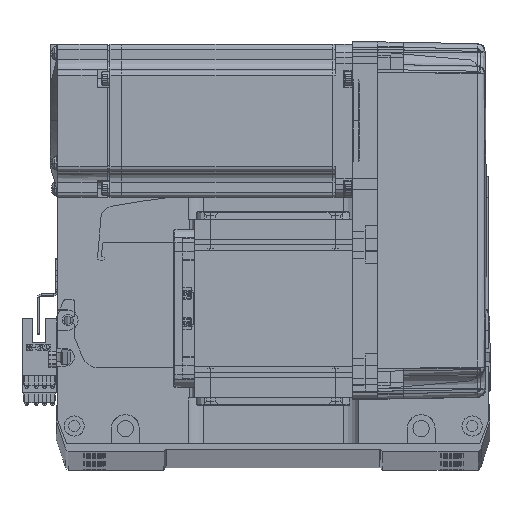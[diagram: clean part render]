
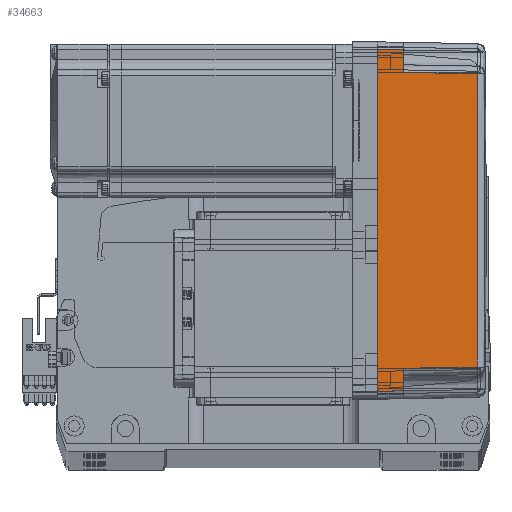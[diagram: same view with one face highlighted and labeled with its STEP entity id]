
A CAD part, top view. The second image highlights one B-rep face of the part: STEP entity #34663.
In plain terms, the highlighted planar face has unit normal (0.018, 0, 1) as drawn and (0, -1, 0.017) by its records, which use the part's own axes.
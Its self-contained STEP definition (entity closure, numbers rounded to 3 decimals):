
#866 = EDGE_CURVE ( 'NONE', #73223, #16569, #66205, .T. ) ;
#5979 = CARTESIAN_POINT ( 'NONE',  ( 67., -36., 0. ) ) ;
#6616 = CARTESIAN_POINT ( 'NONE',  ( 66.826, -35.825, 10. ) ) ;
#6984 = VECTOR ( 'NONE', #49618, 1000. ) ;
#7478 = VECTOR ( 'NONE', #32151, 1000. ) ;
#8142 = CARTESIAN_POINT ( 'NONE',  ( 58., -35.825, 10. ) ) ;
#8253 = EDGE_CURVE ( 'NONE', #47870, #56478, #68515, .T. ) ;
#9572 = VECTOR ( 'NONE', #42678, 1000. ) ;
#11450 = ORIENTED_EDGE ( 'NONE', *, *, #866, .F. ) ;
#11536 = CARTESIAN_POINT ( 'NONE',  ( 58., -35.825, 10. ) ) ;
#11913 = CARTESIAN_POINT ( 'NONE',  ( 67., -36., 0. ) ) ;
#14131 = ORIENTED_EDGE ( 'NONE', *, *, #55688, .T. ) ;
#14836 = EDGE_CURVE ( 'NONE', #56478, #16569, #28631, .T. ) ;
#16569 = VERTEX_POINT ( 'NONE', #41920 ) ;
#16794 = VECTOR ( 'NONE', #53186, 1000. ) ;
#17084 = ORIENTED_EDGE ( 'NONE', *, *, #59080, .T. ) ;
#17101 = VECTOR ( 'NONE', #35294, 1000. ) ;
#17501 = VERTEX_POINT ( 'NONE', #41797 ) ;
#18052 = CARTESIAN_POINT ( 'NONE',  ( -58., -35.825, 10. ) ) ;
#20228 = CARTESIAN_POINT ( 'NONE',  ( -57.495, -35.32, 38.985 ) ) ;
#20635 = ORIENTED_EDGE ( 'NONE', *, *, #8253, .T. ) ;
#21665 = VERTEX_POINT ( 'NONE', #8142 ) ;
#22017 = VECTOR ( 'NONE', #72743, 1000. ) ;
#22584 = LINE ( 'NONE', #55719, #6984 ) ;
#23838 = DIRECTION ( 'NONE',  ( -0.017, 0.017, 1. ) ) ;
#24952 = EDGE_LOOP ( 'NONE', ( #25114, #14131, #43328, #17084, #20635, #72393, #11450, #58636 ) ) ;
#25114 = ORIENTED_EDGE ( 'NONE', *, *, #44613, .T. ) ;
#28631 = LINE ( 'NONE', #64682, #16794 ) ;
#29366 = CARTESIAN_POINT ( 'NONE',  ( 57.495, -35.32, 38.985 ) ) ;
#32151 = DIRECTION ( 'NONE',  ( -1., 0., 0. ) ) ;
#34343 = PLANE ( 'NONE',  #63508 ) ;
#34663 = ADVANCED_FACE ( 'NONE', ( #68343 ), #34343, .T. ) ;
#35294 = DIRECTION ( 'NONE',  ( -0.017, 0.017, 1. ) ) ;
#37082 = CARTESIAN_POINT ( 'NONE',  ( -66.959, -35.958, 2.39 ) ) ;
#38034 = CARTESIAN_POINT ( 'NONE',  ( -57.495, -35.32, 38.985 ) ) ;
#38614 = EDGE_CURVE ( 'NONE', #21665, #17501, #61179, .T. ) ;
#41797 = CARTESIAN_POINT ( 'NONE',  ( 57.495, -35.32, 38.985 ) ) ;
#41920 = CARTESIAN_POINT ( 'NONE',  ( -66.826, -35.825, 10. ) ) ;
#42678 = DIRECTION ( 'NONE',  ( 0.017, 0.017, 1. ) ) ;
#43328 = ORIENTED_EDGE ( 'NONE', *, *, #38614, .T. ) ;
#44336 = CARTESIAN_POINT ( 'NONE',  ( 70., -35.825, 10. ) ) ;
#44613 = EDGE_CURVE ( 'NONE', #54559, #73651, #48983, .T. ) ;
#45250 = DIRECTION ( 'NONE',  ( 0., -1., 0.017 ) ) ;
#47870 = VERTEX_POINT ( 'NONE', #38034 ) ;
#48983 = LINE ( 'NONE', #5979, #17101 ) ;
#49588 = B_SPLINE_CURVE_WITH_KNOTS ( 'NONE', 3,
 ( #29366, #58664, #63804, #52799 ),
 .UNSPECIFIED., .F., .F.,
 ( 4, 4 ),
 ( 0., 1. ),
 .UNSPECIFIED. ) ;
#49618 = DIRECTION ( 'NONE',  ( -1., 0., 0. ) ) ;
#51896 = DIRECTION ( 'NONE',  ( 0., -0.017, -1. ) ) ;
#52799 = CARTESIAN_POINT ( 'NONE',  ( -57.495, -35.32, 38.985 ) ) ;
#53186 = DIRECTION ( 'NONE',  ( -1., 0., 0. ) ) ;
#54559 = VERTEX_POINT ( 'NONE', #11913 ) ;
#55688 = EDGE_CURVE ( 'NONE', #73651, #21665, #57663, .T. ) ;
#55719 = CARTESIAN_POINT ( 'NONE',  ( 0., -36., 0. ) ) ;
#56478 = VERTEX_POINT ( 'NONE', #18052 ) ;
#57663 = LINE ( 'NONE', #44336, #7478 ) ;
#58636 = ORIENTED_EDGE ( 'NONE', *, *, #60600, .F. ) ;
#58664 = CARTESIAN_POINT ( 'NONE',  ( 19.165, -35.316, 39.181 ) ) ;
#59080 = EDGE_CURVE ( 'NONE', #17501, #47870, #49588, .T. ) ;
#60600 = EDGE_CURVE ( 'NONE', #54559, #73223, #22584, .T. ) ;
#61179 = LINE ( 'NONE', #11536, #63954 ) ;
#62134 = CARTESIAN_POINT ( 'NONE',  ( -67., -36., 0. ) ) ;
#62894 = CARTESIAN_POINT ( 'NONE',  ( 70., -36., 0. ) ) ;
#63508 = AXIS2_PLACEMENT_3D ( 'NONE', #62894, #45250, #51896 ) ;
#63804 = CARTESIAN_POINT ( 'NONE',  ( -19.165, -35.316, 39.181 ) ) ;
#63954 = VECTOR ( 'NONE', #23838, 1000. ) ;
#64682 = CARTESIAN_POINT ( 'NONE',  ( 70., -35.825, 10. ) ) ;
#66205 = LINE ( 'NONE', #37082, #9572 ) ;
#68343 = FACE_OUTER_BOUND ( 'NONE', #24952, .T. ) ;
#68515 = LINE ( 'NONE', #20228, #22017 ) ;
#72393 = ORIENTED_EDGE ( 'NONE', *, *, #14836, .T. ) ;
#72743 = DIRECTION ( 'NONE',  ( -0.017, -0.017, -1. ) ) ;
#73223 = VERTEX_POINT ( 'NONE', #62134 ) ;
#73651 = VERTEX_POINT ( 'NONE', #6616 ) ;
